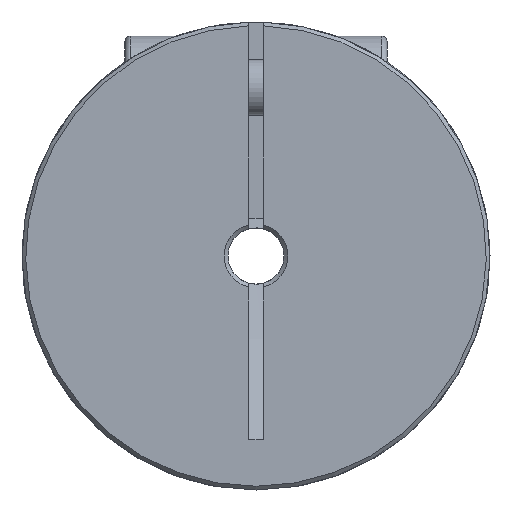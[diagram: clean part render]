
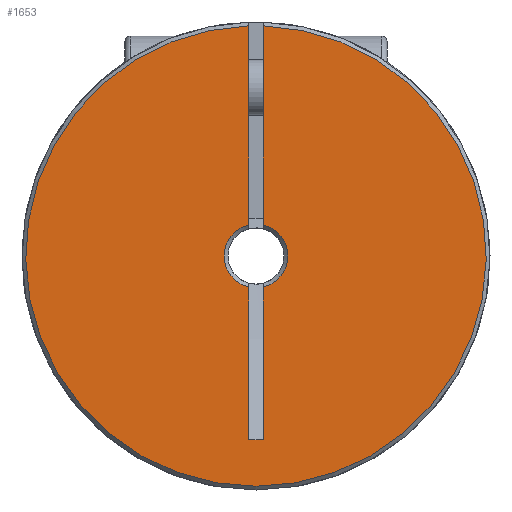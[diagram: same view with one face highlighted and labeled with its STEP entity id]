
A CAD part, left-side view. The second image highlights one B-rep face of the part: STEP entity #1653.
In plain terms, the highlighted planar face has unit normal (-1, 0, 0).
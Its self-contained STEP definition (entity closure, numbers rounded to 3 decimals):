
#115=LINE('',#2652,#201);
#118=LINE('',#2671,#204);
#121=LINE('',#2687,#207);
#124=LINE('',#2700,#210);
#127=LINE('',#2722,#213);
#201=VECTOR('',#2054,1000.);
#204=VECTOR('',#2061,1000.);
#207=VECTOR('',#2070,1000.);
#210=VECTOR('',#2077,1000.);
#213=VECTOR('',#2086,1000.);
#369=ORIENTED_EDGE('',*,*,#783,.T.);
#370=ORIENTED_EDGE('',*,*,#750,.F.);
#371=ORIENTED_EDGE('',*,*,#757,.F.);
#372=ORIENTED_EDGE('',*,*,#739,.T.);
#373=ORIENTED_EDGE('',*,*,#784,.T.);
#374=ORIENTED_EDGE('',*,*,#733,.T.);
#375=ORIENTED_EDGE('',*,*,#785,.F.);
#376=ORIENTED_EDGE('',*,*,#745,.F.);
#733=EDGE_CURVE('',#944,#943,#115,.T.);
#739=EDGE_CURVE('',#950,#948,#118,.T.);
#745=EDGE_CURVE('',#955,#956,#121,.T.);
#750=EDGE_CURVE('',#960,#961,#124,.T.);
#757=EDGE_CURVE('',#950,#960,#127,.T.);
#783=EDGE_CURVE('',#955,#961,#1095,.T.);
#784=EDGE_CURVE('',#948,#944,#1096,.T.);
#785=EDGE_CURVE('',#956,#943,#1097,.T.);
#943=VERTEX_POINT('',#2651);
#944=VERTEX_POINT('',#2653);
#948=VERTEX_POINT('',#2669);
#950=VERTEX_POINT('',#2672);
#955=VERTEX_POINT('',#2686);
#956=VERTEX_POINT('',#2688);
#960=VERTEX_POINT('',#2701);
#961=VERTEX_POINT('',#2702);
#1095=CIRCLE('',#1812,1.7);
#1096=CIRCLE('',#1813,1.7);
#1097=CIRCLE('',#1814,12.3);
#1206=EDGE_LOOP('',(#369,#370,#371,#372,#373,#374,#375,#376));
#1400=FACE_BOUND('',#1206,.T.);
#1577=PLANE('',#1811);
#1653=ADVANCED_FACE('',(#1400),#1577,.F.);
#1811=AXIS2_PLACEMENT_3D('',#2839,#2127,#2128);
#1812=AXIS2_PLACEMENT_3D('',#2840,#2129,#2130);
#1813=AXIS2_PLACEMENT_3D('',#2841,#2131,#2132);
#1814=AXIS2_PLACEMENT_3D('',#2842,#2133,#2134);
#2054=DIRECTION('',(0.,0.,1.));
#2061=DIRECTION('',(0.,0.,1.));
#2070=DIRECTION('',(0.,0.,1.));
#2077=DIRECTION('',(0.,0.,1.));
#2086=DIRECTION('',(0.,-1.,0.));
#2127=DIRECTION('',(1.,0.,0.));
#2128=DIRECTION('',(0.,0.,-1.));
#2129=DIRECTION('',(1.,0.,0.));
#2130=DIRECTION('',(0.,0.,-1.));
#2131=DIRECTION('',(1.,0.,0.));
#2132=DIRECTION('',(0.,0.,-1.));
#2133=DIRECTION('',(1.,0.,0.));
#2134=DIRECTION('',(0.,0.,-1.));
#2651=CARTESIAN_POINT('',(0.,0.4,12.293));
#2652=CARTESIAN_POINT('',(0.,0.4,-9.815));
#2653=CARTESIAN_POINT('',(0.,0.4,1.652));
#2669=CARTESIAN_POINT('',(0.,0.4,-1.652));
#2671=CARTESIAN_POINT('',(0.,0.4,-9.815));
#2672=CARTESIAN_POINT('',(0.,0.4,-9.815));
#2686=CARTESIAN_POINT('',(0.,-0.4,1.652));
#2687=CARTESIAN_POINT('',(0.,-0.4,-9.815));
#2688=CARTESIAN_POINT('',(0.,-0.4,12.293));
#2700=CARTESIAN_POINT('',(0.,-0.4,-9.815));
#2701=CARTESIAN_POINT('',(0.,-0.4,-9.815));
#2702=CARTESIAN_POINT('',(0.,-0.4,-1.652));
#2722=CARTESIAN_POINT('',(0.,0.4,-9.815));
#2839=CARTESIAN_POINT('',(0.,0.,0.));
#2840=CARTESIAN_POINT('',(0.,0.,0.));
#2841=CARTESIAN_POINT('',(0.,0.,0.));
#2842=CARTESIAN_POINT('',(0.,0.,0.));
